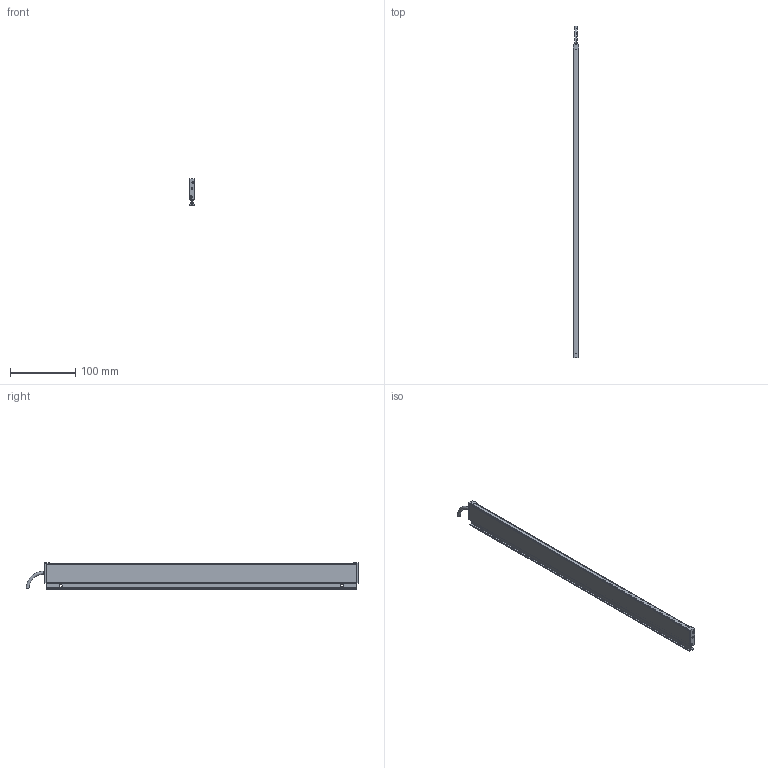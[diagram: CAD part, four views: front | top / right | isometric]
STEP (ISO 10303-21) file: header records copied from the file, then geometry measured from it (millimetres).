
FILE_DESCRIPTION (( 'STEP AP214' ), '1' );
FILE_NAME ('ILG-L-K1-0482mm.STEP', '2017-07-11T07:02:43', ( '' ), ( '' ), 'SwSTEP 2.0', 'SolidWorks 2016', '' );
FILE_SCHEMA (( 'AUTOMOTIVE_DESIGN' ));
Length unit declared in the file: millimetre
Products named in the file (1): ILG-L-K1-0482mm
Bounding box: 9 x 510.25 x 40.71 mm (x, y, z)
Volume: 70289.9 mm3; surface area: 97079.6 mm2
Topology: 9 solids, 9 shells, 428 faces, 1102 edges, 694 vertices
Faces by surface type: plane 205, cylinder 149, cone 64, torus 10
Entity records: 17814 total; most frequent: CARTESIAN_POINT 2373, DIRECTION 2314, ORIENTED_EDGE 2188, EDGE_CURVE 1094, AXIS2_PLACEMENT_3D 843, VERTEX_POINT 694, VECTOR 628, LINE 628
